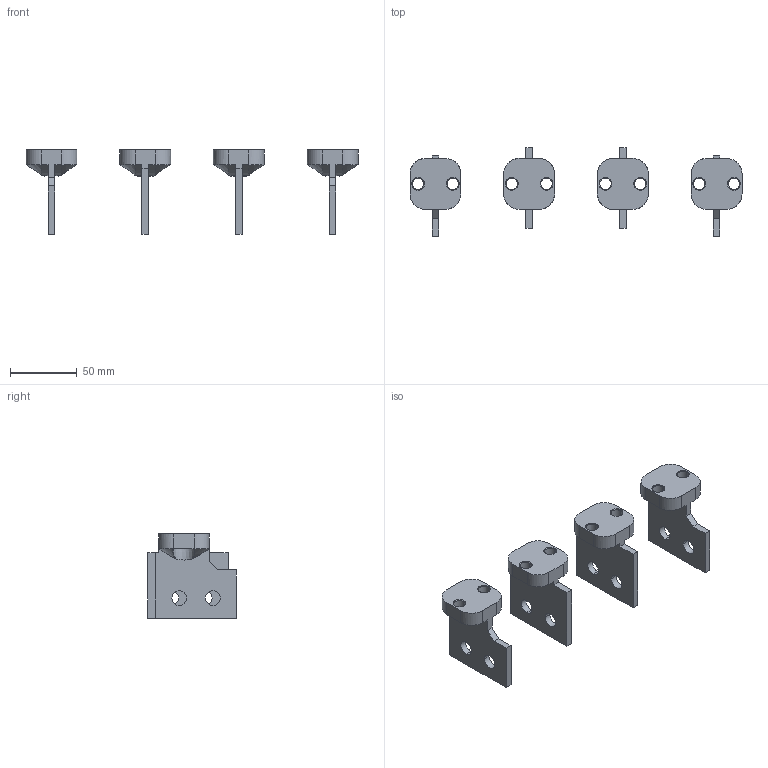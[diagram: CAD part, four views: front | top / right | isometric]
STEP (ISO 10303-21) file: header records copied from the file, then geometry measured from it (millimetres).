
FILE_DESCRIPTION (( 'STEP AP203' ), '1' );
FILE_NAME ('Âûâîäû âåðòèê. íèæíèå äëÿ âûêàòíîãî íà 630À 4P.STEP', '2024-06-25T10:13:24', ( '' ), ( '' ), 'SwSTEP 2.0', 'SolidWorks 2018', '' );
FILE_SCHEMA (( 'CONFIG_CONTROL_DESIGN' ));
Length unit declared in the file: millimetre
Products named in the file (1): Âûâîäû âåðòèê. íèæíèå äëÿ âûêàòíîãî íà 630À 4P
Bounding box: 248 x 66 x 63 mm (x, y, z)
Volume: 119326.9 mm3; surface area: 44527.1 mm2
Topology: 4 solids, 4 shells, 258 faces, 676 edges, 426 vertices
Faces by surface type: plane 96, bspline 82, cylinder 56, cone 24
Entity records: 21729 total; most frequent: CARTESIAN_POINT 15859, ORIENTED_EDGE 1352, DIRECTION 978, EDGE_CURVE 676, VERTEX_POINT 426, AXIS2_PLACEMENT_3D 351, EDGE_LOOP 290, VECTOR 276
